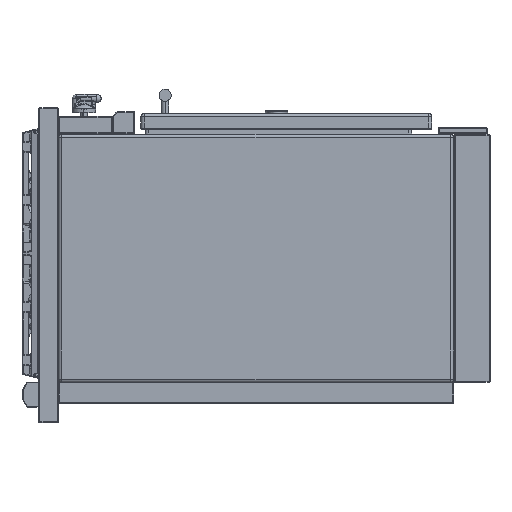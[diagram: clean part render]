
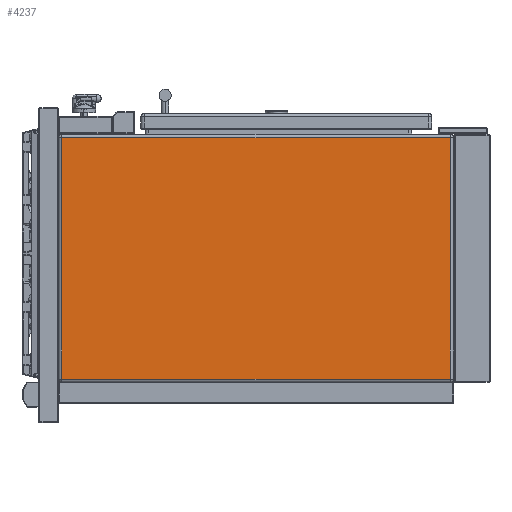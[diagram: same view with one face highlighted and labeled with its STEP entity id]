
A CAD part, left-side view. The second image highlights one B-rep face of the part: STEP entity #4237.
In plain terms, the highlighted planar face has unit normal (-1, 0, 0).
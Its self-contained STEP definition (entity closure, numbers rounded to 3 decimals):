
#542=DIRECTION('',(0.,1.,0.));
#543=VECTOR('',#542,801.);
#544=CARTESIAN_POINT('',(-750.,82.,249.));
#545=LINE('',#544,#543);
#546=DIRECTION('',(0.,0.,1.));
#547=VECTOR('',#546,498.);
#548=CARTESIAN_POINT('',(-750.,82.,-249.));
#549=LINE('',#548,#547);
#550=DIRECTION('',(0.,-1.,0.));
#551=VECTOR('',#550,801.);
#552=CARTESIAN_POINT('',(-750.,883.,-249.));
#553=LINE('',#552,#551);
#554=DIRECTION('',(0.,0.,-1.));
#555=VECTOR('',#554,498.);
#556=CARTESIAN_POINT('',(-750.,883.,249.));
#557=LINE('',#556,#555);
#2949=CARTESIAN_POINT('',(-750.,82.,249.));
#2950=CARTESIAN_POINT('',(-750.,883.,249.));
#2951=VERTEX_POINT('',#2949);
#2952=VERTEX_POINT('',#2950);
#2953=CARTESIAN_POINT('',(-750.,82.,-249.));
#2954=VERTEX_POINT('',#2953);
#2971=CARTESIAN_POINT('',(-750.,883.,-249.));
#2972=VERTEX_POINT('',#2971);
#4224=CARTESIAN_POINT('',(-750.,0.,0.));
#4225=DIRECTION('',(1.,0.,0.));
#4226=DIRECTION('',(0.,0.,-1.));
#4227=AXIS2_PLACEMENT_3D('',#4224,#4225,#4226);
#4228=PLANE('',#4227);
#4230=ORIENTED_EDGE('',*,*,#4229,.F.);
#4232=ORIENTED_EDGE('',*,*,#4231,.F.);
#4233=ORIENTED_EDGE('',*,*,#4215,.F.);
#4234=ORIENTED_EDGE('',*,*,#4021,.F.);
#4235=EDGE_LOOP('',(#4230,#4232,#4233,#4234));
#4236=FACE_OUTER_BOUND('',#4235,.F.);
#4021=EDGE_CURVE('',#2952,#2972,#557,.T.);
#4215=EDGE_CURVE('',#2972,#2954,#553,.T.);
#4229=EDGE_CURVE('',#2951,#2952,#545,.T.);
#4231=EDGE_CURVE('',#2954,#2951,#549,.T.);
#4237=ADVANCED_FACE('',(#4236),#4228,.F.);
